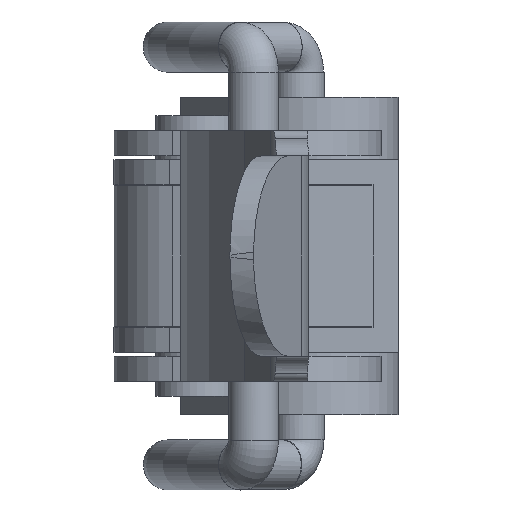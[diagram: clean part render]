
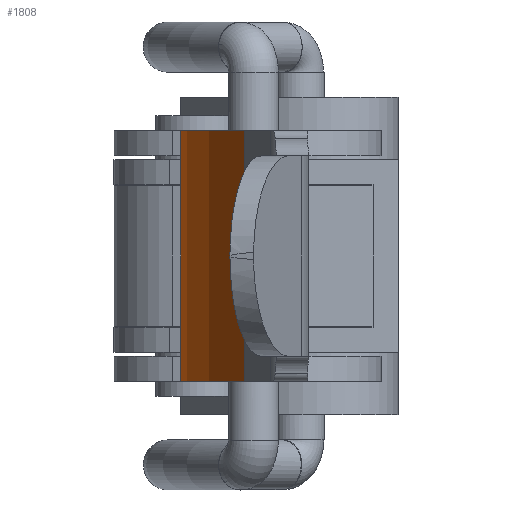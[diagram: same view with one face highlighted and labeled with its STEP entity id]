
A CAD part, left-side view. The second image highlights one B-rep face of the part: STEP entity #1808.
In plain terms, the highlighted cylindrical face has radius 50.055 mm (diameter 100.11 mm), a partial arc.
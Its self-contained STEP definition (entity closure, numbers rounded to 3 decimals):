
#121=CIRCLE('',#1993,50.055);
#125=CIRCLE('',#1998,50.055);
#189=CYLINDRICAL_SURFACE('',#2029,50.055);
#543=ORIENTED_EDGE('',*,*,#865,.T.);
#544=ORIENTED_EDGE('',*,*,#905,.F.);
#545=ORIENTED_EDGE('',*,*,#856,.F.);
#546=ORIENTED_EDGE('',*,*,#903,.T.);
#856=EDGE_CURVE('',#1072,#1073,#121,.T.);
#865=EDGE_CURVE('',#1079,#1078,#125,.T.);
#903=EDGE_CURVE('',#1072,#1079,#1257,.T.);
#905=EDGE_CURVE('',#1073,#1078,#1259,.T.);
#1072=VERTEX_POINT('',#2972);
#1073=VERTEX_POINT('',#2974);
#1078=VERTEX_POINT('',#2988);
#1079=VERTEX_POINT('',#2990);
#1257=LINE('',#3066,#1394);
#1259=LINE('',#3069,#1396);
#1394=VECTOR('',#2482,1000.);
#1396=VECTOR('',#2486,1000.);
#1492=EDGE_LOOP('',(#543,#544,#545,#546));
#1629=FACE_BOUND('',#1492,.T.);
#1808=ADVANCED_FACE('',(#1629),#189,.T.);
#1993=AXIS2_PLACEMENT_3D('',#2973,#2382,#2383);
#1998=AXIS2_PLACEMENT_3D('',#2989,#2397,#2398);
#2029=AXIS2_PLACEMENT_3D('',#3068,#2484,#2485);
#2382=DIRECTION('',(0.,0.,1.));
#2383=DIRECTION('',(1.,0.,0.));
#2397=DIRECTION('',(0.,0.,1.));
#2398=DIRECTION('',(1.,0.,0.));
#2482=DIRECTION('',(0.,0.,-1.));
#2484=DIRECTION('',(0.,0.,-1.));
#2485=DIRECTION('',(-1.,0.,0.));
#2486=DIRECTION('',(0.,0.,-1.));
#2972=CARTESIAN_POINT('',(-31.748,1.,7.5));
#2973=CARTESIAN_POINT('',(-32.195,-49.053,7.5));
#2974=CARTESIAN_POINT('',(-51.324,-2.798,7.5));
#2988=CARTESIAN_POINT('',(-51.324,-2.798,-7.5));
#2989=CARTESIAN_POINT('',(-32.195,-49.053,-7.5));
#2990=CARTESIAN_POINT('',(-31.748,1.,-7.5));
#3066=CARTESIAN_POINT('',(-31.748,1.,7.5));
#3068=CARTESIAN_POINT('',(-32.195,-49.053,7.5));
#3069=CARTESIAN_POINT('',(-51.324,-2.798,7.5));
